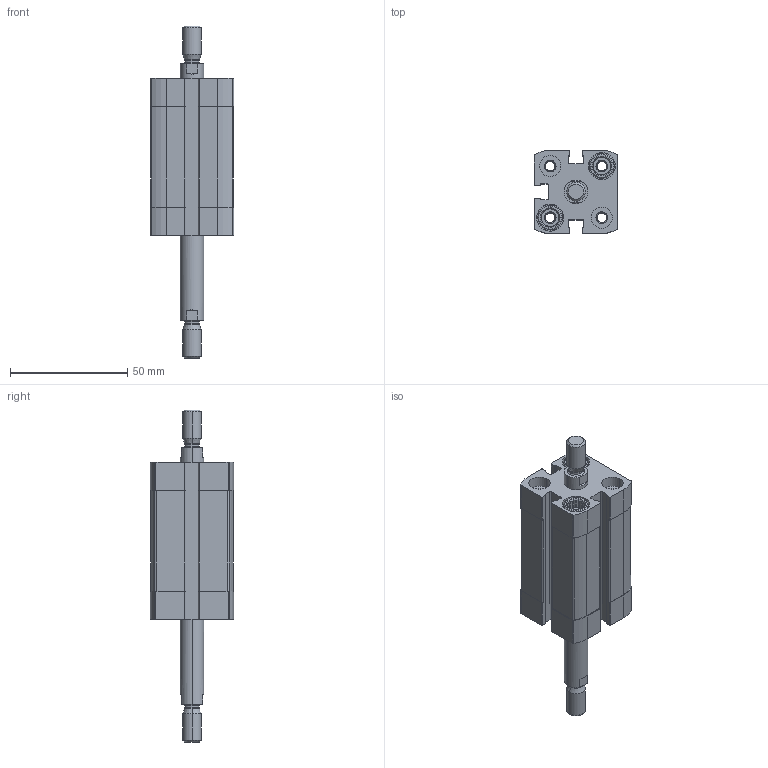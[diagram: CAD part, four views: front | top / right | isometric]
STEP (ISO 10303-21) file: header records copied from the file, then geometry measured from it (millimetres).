
FILE_DESCRIPTION (( 'STEP AP203' ), '1' );
FILE_NAME ('CCN20-30-P.STEP', '2020-06-22T18:40:13', ( '' ), ( '' ), 'SwSTEP 2.0', 'SolidWorks 2019', '' );
FILE_SCHEMA (( 'CONFIG_CONTROL_DESIGN' ));
Length unit declared in the file: millimetre
Products named in the file (1): CCN20-30-P
Bounding box: 35.5 x 35.5 x 141.5 mm (x, y, z)
Volume: 65684.7 mm3; surface area: 28780.9 mm2
Topology: 2 solids, 2 shells, 428 faces, 1120 edges, 728 vertices
Faces by surface type: plane 236, cylinder 140, cone 44, torus 8
Entity records: 13423 total; most frequent: CARTESIAN_POINT 2577, DIRECTION 2314, ORIENTED_EDGE 2240, EDGE_CURVE 1120, AXIS2_PLACEMENT_3D 865, VERTEX_POINT 728, LINE 584, VECTOR 584
